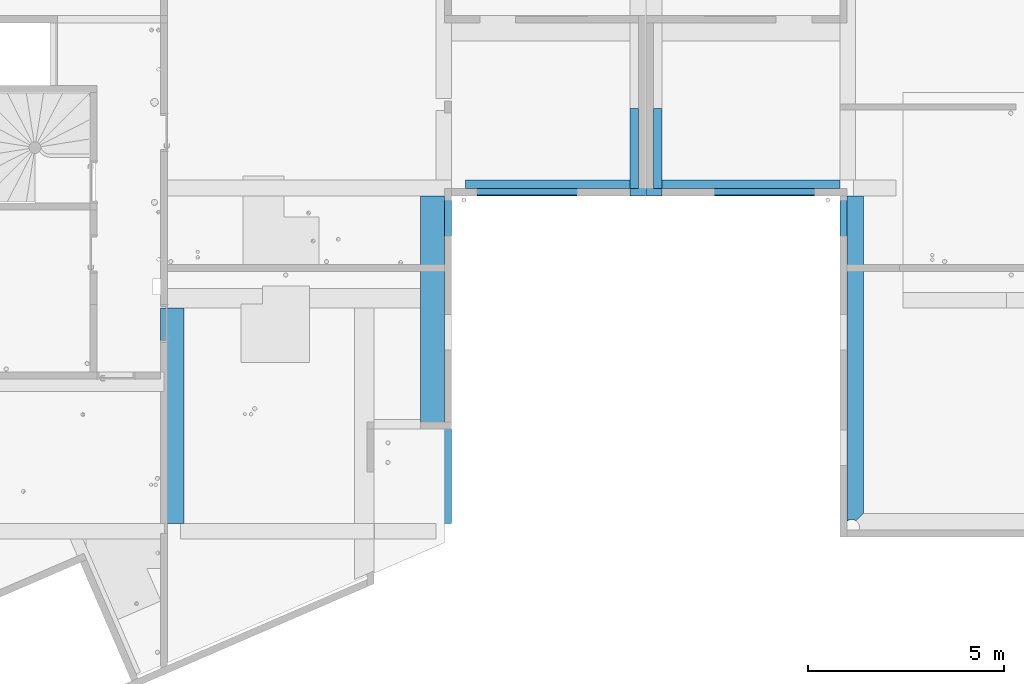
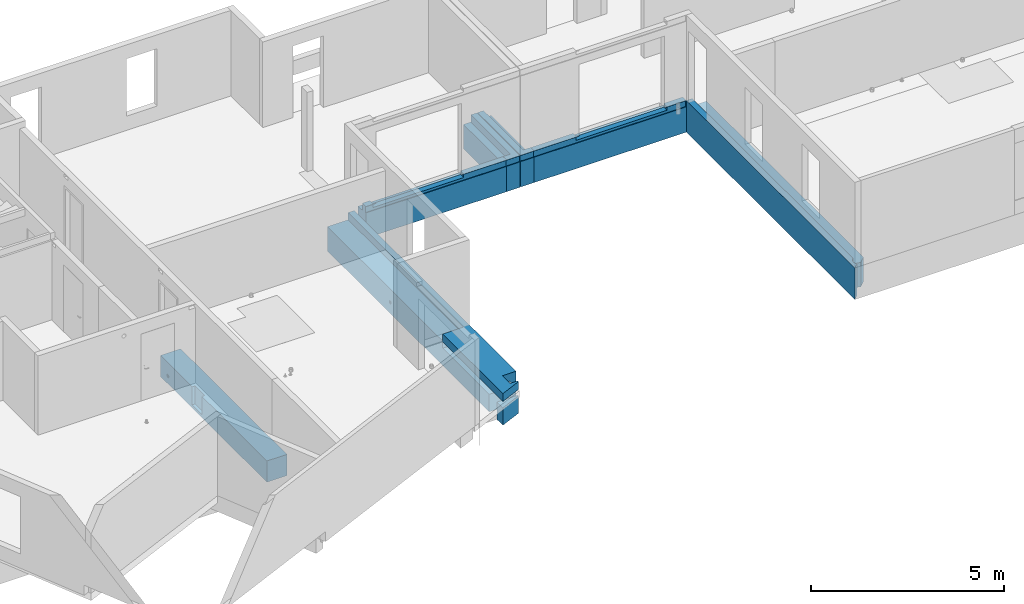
# One storey, part 20 of 34: 7 beams.
"""IFC2X3 building model written with IfcOpenShell, lengths in centimetres."""

from ifc_helpers import new_model, entity, si_unit, converted_unit, derived_unit, direction, frame, origin, place, context, subcontext, project, spatial, faceted_brep, source, transform, mapped, material, type_object, type_shapes, element, save


model = new_model("IFC2X3")

# Units and contexts
model_context = context("Model", 3, precision=0.001, world=origin(), true_north=direction((6.12303176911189e-17, 1.0)))
body_context = subcontext(model_context, "Body", "Model", "MODEL_VIEW")
ifc_project = project(units=[si_unit("LENGTHUNIT", "METRE", prefix="CENTI"), si_unit("AREAUNIT", "SQUARE_METRE"), si_unit("VOLUMEUNIT", "CUBIC_METRE"), converted_unit("PLANEANGLEUNIT", "DEGREE", entity("IfcRatioMeasure", 0.0174532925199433), si_unit("PLANEANGLEUNIT", "RADIAN"), dimensions=[0, 0, 0, 0, 0, 0, 0]), si_unit("MASSUNIT", "GRAM", prefix="KILO"), derived_unit("MASSDENSITYUNIT", [(si_unit("MASSUNIT", "GRAM", prefix="KILO"), 1), (si_unit("LENGTHUNIT", "METRE"), -3)]), si_unit("TIMEUNIT", "SECOND"), si_unit("FREQUENCYUNIT", "HERTZ"), si_unit("THERMODYNAMICTEMPERATUREUNIT", "DEGREE_CELSIUS"), derived_unit("THERMALTRANSMITTANCEUNIT", [(si_unit("MASSUNIT", "GRAM", prefix="KILO"), 1), (si_unit("THERMODYNAMICTEMPERATUREUNIT", "KELVIN"), -1), (si_unit("TIMEUNIT", "SECOND"), -3)]), derived_unit("VOLUMETRICFLOWRATEUNIT", [(si_unit("LENGTHUNIT", "METRE"), 3), (si_unit("TIMEUNIT", "SECOND"), -1)]), si_unit("ELECTRICCURRENTUNIT", "AMPERE"), si_unit("ELECTRICVOLTAGEUNIT", "VOLT"), si_unit("POWERUNIT", "WATT"), si_unit("FORCEUNIT", "NEWTON"), si_unit("ILLUMINANCEUNIT", "LUX"), si_unit("LUMINOUSFLUXUNIT", "LUMEN"), si_unit("LUMINOUSINTENSITYUNIT", "CANDELA"), derived_unit("USERDEFINED", [(si_unit("MASSUNIT", "GRAM", prefix="KILO"), -1), (si_unit("LENGTHUNIT", "METRE"), -2), (si_unit("TIMEUNIT", "SECOND"), 3), (si_unit("LUMINOUSFLUXUNIT", "LUMEN"), 1)]), derived_unit("LINEARVELOCITYUNIT", [(si_unit("LENGTHUNIT", "METRE"), 1), (si_unit("TIMEUNIT", "SECOND"), -1)]), si_unit("PRESSUREUNIT", "PASCAL"), derived_unit("USERDEFINED", [(si_unit("LENGTHUNIT", "METRE"), -2), (si_unit("MASSUNIT", "GRAM", prefix="KILO"), 1), (si_unit("TIMEUNIT", "SECOND"), -2)])], contexts=[model_context])

# Site, building, storey
site_placement = place(None, origin())
site = spatial("IfcSite", under=ifc_project, at=site_placement, Name="Default", CompositionType="ELEMENT")
building_placement = place(site_placement, origin())
building = spatial("IfcBuilding", under=site, at=building_placement, Name="CAGE 03", CompositionType="ELEMENT")
storey_placement = place(building_placement, frame((0.0, 0.0, 340.0)))
storey = spatial("IfcBuildingStorey", under=building, at=storey_placement, Name="R+1", CompositionType="ELEMENT", Elevation=340.0)

# Beams
ifc_material = material(Name="Béton, C25/30")
beam_type_1 = type_object("IfcBeamType", Name="BBGO-Poutre rect:60x90ht", PredefinedType="BEAM")
beam_1_placement = place(storey_placement, frame((4134.36582014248, 3831.66066607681, -90.0), z_axis=(0.0, 0.0, 1.0), x_axis=(0.0, 1.0, 0.0)))
element("IfcBeam", 1, at=beam_1_placement, inside=storey, type_object=beam_type_1, material=ifc_material, Name="BBGO-Poutre rect:60x90ht", ObjectType="BBGO-Poutre rect:60x90ht", context=body_context, shape_type="Brep", body=[
    faceted_brep([(0.0, 0.0, 0.0), (0.0, -60.0, 0.0), (0.0, -60.0, 67.0), (0.0, -50.5000000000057, 67.0), (0.0, -10.5000000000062, 67.0), (0.0, 0.0, 67.0), (550.0, -60.0, 67.0), (516.504844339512, -60.0, 27.169418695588), (516.752422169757, -60.0, 26.0847093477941), (517.0, -60.0, 25.0), (550.0, -60.0, 0.0), (515.811146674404, -60.0, 28.0392880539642), (515.117449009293, -60.0, 28.9091574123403), (514.115026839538, -60.0, 29.3918984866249), (513.112604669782, -60.0, 29.8746395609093), (512.0, -60.0, 29.8746395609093), (510.887395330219, -60.0, 29.8746395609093), (509.884973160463, -60.0, 29.3918984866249), (508.882550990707, -60.0, 28.9091574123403), (508.188853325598, -60.0, 28.0392880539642), (507.495155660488, -60.0, 27.169418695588), (507.247577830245, -60.0, 26.0847093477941), (507.0, -60.0, 25.0), (510.887395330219, -60.0, 20.1253604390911), (509.884973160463, -60.0, 20.6081015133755), (508.882550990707, -60.0, 21.09084258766), (508.188853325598, -60.0, 21.9607119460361), (507.247577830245, -60.0, 23.9152906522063), (507.495155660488, -60.0, 22.8305813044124), (516.812504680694, -60.0, 24.1785293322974), (516.504844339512, -60.0, 22.8305813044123), (515.811146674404, -60.0, 21.9607119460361), (515.117449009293, -60.0, 21.09084258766), (514.115026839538, -60.0, 20.6081015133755), (513.112604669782, -60.0, 20.125360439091), (512.0, -60.0, 20.1253604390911), (336.500000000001, 0.0, 67.0), (336.500000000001, -9.0, 67.0), (336.500000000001, -9.0, 10.0), (336.500000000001, 0.0, 10.0), (386.5, 0.0, 10.0), (386.5, -9.0, 10.0), (386.5, 0.0, 67.0), (386.5, -9.0, 67.0), (550.0, -18.0, 67.0), (550.0, 0.0, 0.0), (550.0, 0.0, 67.0), (516.504844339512, 0.0, 22.8305813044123), (516.752422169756, 0.0, 23.9152906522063), (517.0, 0.0, 25.0), (515.811146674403, 0.0, 21.9607119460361), (515.117449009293, 0.0, 21.09084258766), (514.115026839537, 0.0, 20.6081015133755), (513.112604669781, 0.0, 20.125360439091), (512.0, 0.0, 20.1253604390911), (510.887395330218, 0.0, 20.1253604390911), (509.884973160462, 0.0, 20.6081015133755), (508.882550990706, 0.0, 21.09084258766), (508.188853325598, 0.0, 21.9607119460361), (507.495155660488, 0.0, 22.8305813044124), (507.187495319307, 0.0, 24.1785293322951), (507.0, 0.0, 25.0), (508.882550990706, 0.0, 28.9091574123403), (508.188853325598, 0.0, 28.0392880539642), (507.247577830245, 0.0, 26.0847093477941), (507.495155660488, 0.0, 27.169418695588), (516.812504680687, 0.0, 25.8214706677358), (516.504844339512, 0.0, 27.169418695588), (515.811146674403, 0.0, 28.0392880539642), (515.117449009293, 0.0, 28.9091574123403), (514.115026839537, 0.0, 29.3918984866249), (513.112604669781, 0.0, 29.8746395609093), (512.0, 0.0, 29.8746395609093), (510.887395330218, 0.0, 29.8746395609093), (509.884973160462, 0.0, 29.3918984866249), (516.719416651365, -30.0, 23.3486046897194), (509.339839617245, -30.0, 20.7663790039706), (516.174874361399, -30.0, 22.2485596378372), (512.451828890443, -30.0, 20.0204567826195), (511.328739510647, -30.0, 20.0452639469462), (513.651395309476, -30.0, 20.2805833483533), (517.0, -35.3099209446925, 25.0), (517.0, -24.6900790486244, 25.0), (515.455244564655, -30.0, 21.3859600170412), (514.612452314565, -32.6003872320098, 20.7367743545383), (508.388547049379, -30.0, 21.542051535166), (507.0, -24.6900790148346, 25.0), (507.280583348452, -30.0, 23.3486046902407), (510.295713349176, -32.6003872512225, 20.2994248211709), (507.737752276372, -27.4291545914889, 22.3859524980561), (512.67126048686, -30.0, 29.954736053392), (511.548171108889, -30.0, 29.9795432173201), (507.825125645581, -30.0000000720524, 27.7514403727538), (507.280583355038, -29.9999995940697, 26.6513953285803), (510.348604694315, -30.0, 29.7194166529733), (508.544755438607, -29.9999999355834, 28.6140399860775), (509.387547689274, -32.6003870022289, 29.2632256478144), (514.660160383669, -30.0, 29.2336209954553), (515.611452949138, -30.0, 28.4579484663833), (516.719416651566, -30.0, 26.6513953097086), (513.704286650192, -32.6003871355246, 29.7005751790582), (516.262247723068, -27.4291546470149, 27.6140475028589)], [[[0, 1, 2, 3, 4, 5]], [[6, 7, 8]], [[6, 8, 9]], [[9, 10, 6]], [[6, 11, 7]], [[6, 12, 11]], [[6, 13, 12]], [[6, 14, 13]], [[6, 15, 14]], [[6, 16, 15]], [[6, 17, 16]], [[6, 18, 17]], [[6, 2, 18]], [[2, 19, 18]], [[2, 20, 19]], [[2, 21, 20]], [[2, 22, 21]], [[1, 22, 2]], [[23, 1, 10]], [[1, 23, 24]], [[1, 24, 25]], [[1, 25, 26]], [[1, 27, 22]], [[1, 28, 27]], [[1, 26, 28]], [[10, 9, 29]], [[10, 29, 30]], [[10, 30, 31]], [[10, 31, 32]], [[10, 32, 33]], [[10, 33, 34]], [[10, 34, 35]], [[10, 35, 23]], [[36, 37, 38, 39]], [[40, 39, 38, 41]], [[42, 40, 41, 43]], [[44, 6, 10, 45, 46]], [[38, 37, 43, 41]], [[45, 47, 48]], [[45, 48, 49]], [[49, 46, 45]], [[45, 50, 47]], [[45, 51, 50]], [[45, 52, 51]], [[45, 53, 52]], [[45, 54, 53]], [[45, 55, 54]], [[45, 40, 55]], [[45, 39, 40]], [[39, 45, 0]], [[5, 39, 0]], [[39, 5, 36]], [[40, 56, 55]], [[40, 57, 56]], [[40, 58, 57]], [[40, 59, 58]], [[40, 60, 59]], [[40, 61, 60]], [[42, 61, 40]], [[62, 42, 46]], [[42, 62, 63]], [[42, 64, 61]], [[42, 65, 64]], [[42, 63, 65]], [[46, 49, 66]], [[46, 66, 67]], [[46, 67, 68]], [[46, 68, 69]], [[46, 69, 70]], [[46, 70, 71]], [[46, 71, 72]], [[46, 72, 73]], [[46, 73, 74]], [[46, 74, 62]], [[45, 10, 1, 0]], [[43, 37, 36, 5, 4, 3, 2, 6, 44, 46, 42]], [[75, 48, 47]], [[56, 57, 76]], [[47, 77, 75]], [[35, 34, 78]], [[79, 35, 78]], [[34, 33, 80]], [[48, 81, 82, 49]], [[29, 9, 81]], [[81, 48, 75]], [[77, 50, 83]], [[33, 84, 80]], [[29, 75, 30]], [[80, 53, 78]], [[75, 29, 81]], [[25, 24, 76]], [[84, 83, 51]], [[57, 85, 76]], [[77, 47, 50]], [[84, 51, 52]], [[86, 27, 87]], [[31, 30, 77]], [[88, 76, 24]], [[52, 53, 80]], [[85, 58, 89]], [[87, 27, 28]], [[83, 31, 77]], [[32, 31, 83]], [[78, 54, 79]], [[34, 80, 78]], [[30, 75, 77]], [[23, 35, 79]], [[78, 53, 54]], [[88, 55, 56]], [[88, 79, 55]], [[25, 76, 85]], [[26, 25, 85]], [[89, 87, 28]], [[87, 60, 86]], [[28, 26, 89]], [[85, 57, 58]], [[86, 22, 27]], [[60, 61, 86]], [[60, 87, 59]], [[59, 87, 89]], [[59, 89, 58]], [[26, 85, 89]], [[84, 33, 32]], [[51, 83, 50]], [[80, 84, 52]], [[83, 84, 32]], [[88, 24, 23]], [[55, 79, 54]], [[76, 88, 56]], [[79, 88, 23]], [[21, 22, 86]], [[86, 61, 64]], [[90, 15, 91]], [[65, 92, 93]], [[16, 94, 91]], [[15, 16, 91]], [[16, 17, 94]], [[20, 93, 92]], [[64, 93, 86]], [[93, 21, 86]], [[92, 63, 95]], [[17, 96, 94]], [[94, 73, 91]], [[70, 69, 97]], [[12, 13, 97]], [[96, 62, 74]], [[69, 98, 97]], [[18, 19, 95]], [[92, 65, 63]], [[82, 8, 99]], [[93, 64, 65]], [[100, 97, 13]], [[95, 19, 92]], [[98, 68, 101]], [[99, 8, 7]], [[19, 20, 92]], [[74, 73, 94]], [[91, 72, 90]], [[96, 95, 62]], [[93, 20, 21]], [[14, 15, 90]], [[91, 73, 72]], [[100, 71, 70]], [[100, 90, 71]], [[12, 97, 98]], [[11, 12, 98]], [[101, 99, 7]], [[99, 66, 82]], [[7, 11, 101]], [[98, 69, 68]], [[8, 82, 81, 9]], [[66, 49, 82]], [[66, 99, 67]], [[67, 99, 101]], [[67, 101, 68]], [[11, 98, 101]], [[96, 17, 18]], [[62, 95, 63]], [[94, 96, 74]], [[95, 96, 18]], [[100, 13, 14]], [[71, 90, 72]], [[97, 100, 70]], [[90, 100, 14]]]),
])
beam_type_2 = type_object("IfcBeamType", Name="BBGO-Poutre rect:40x100ht", PredefinedType="BEAM")
beam_2_placement = place(storey_placement, frame((4913.36582014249, 4668.66066607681, -100.0)))
element("IfcBeam", 2, at=beam_2_placement, inside=storey, type_object=beam_type_2, material=ifc_material, Name="BBGO-Poutre rect:40x100ht", ObjectType="BBGO-Poutre rect:40x100ht", context=body_context, shape_type="Brep", body=[
    faceted_brep([(420.0, 0.0, 0.0), (420.0, 40.0, 0.0), (420.0, 40.0, 77.0), (420.0, 18.0, 77.0), (420.0, 18.0, 100.0), (420.0, 0.0, 100.0), (420.0, 0.0, 99.5899561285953), (420.0, 2.0, 99.6099582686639), (420.0, 2.0, 80.0), (420.0, 0.0, 80.0), (285.0, 0.0, 100.0), (285.0, 0.0, 99.5899561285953), (0.0, 0.0, 0.0), (0.0, 40.0, 0.0), (0.0, 40.0, 77.0), (293.0, 18.0, 100.0), (293.0, 2.0, 100.0), (285.0, 2.0, 100.0), (0.0, 0.0, 80.0), (0.0, 2.0, 80.0), (0.0, 2.0, 99.6099582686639), (0.0, 0.0, 99.5899561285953), (0.0, 0.0, 100.0), (0.0, 18.0, 100.0), (0.0, 18.0, 77.0), (22.0, 18.0, 100.0), (22.0, 18.0, 88.0), (293.0, 18.0, 88.0), (30.0, 0.0, 100.0), (30.0, 0.0, 99.5899561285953), (30.0, 2.0, 99.6099582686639), (30.0, 2.0, 100.0), (285.0, 2.0, 99.6099582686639), (22.0, 2.0, 88.0), (293.0, 2.0, 88.0), (293.0, 2.0, 99.6099582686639), (22.0, 2.0, 99.6099582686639), (22.0, 2.0, 100.0)], [[[0, 1, 2, 3, 4, 5, 6, 7, 8, 9]], [[5, 10, 11, 6]], [[1, 0, 12, 13]], [[1, 13, 14, 2]], [[10, 5, 4, 15, 16, 17]], [[13, 12, 18, 19, 20, 21, 22, 23, 24, 14]], [[24, 3, 2, 14]], [[3, 24, 23, 25, 26, 27, 15, 4]], [[8, 19, 18, 9]], [[28, 29, 30, 31]], [[11, 10, 17, 32]], [[26, 33, 34, 27]], [[35, 34, 33, 36, 20, 19, 8, 7]], [[22, 28, 31, 37, 25, 23]], [[36, 30, 29, 21, 20]], [[28, 22, 21, 29]], [[12, 0, 9, 18]], [[32, 35, 7, 6, 11]], [[35, 32, 17, 16]], [[30, 36, 37, 31]], [[36, 33, 26, 25, 37]], [[34, 35, 16, 15, 27]]]),
])
beam_3_placement = place(storey_placement, frame((5415.36582014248, 4668.6606660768, -100.0)))
element("IfcBeam", 3, at=beam_3_placement, inside=storey, type_object=beam_type_2, material=ifc_material, Name="BBGO-Poutre rect:40x100ht", ObjectType="BBGO-Poutre rect:40x100ht", context=body_context, shape_type="Brep", body=[
    faceted_brep([(0.0, 40.0, 0.0), (0.0, 0.0, 0.0), (0.0, 0.0, 80.0), (0.0, 2.0, 80.0), (0.0, 2.0, 99.6099582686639), (0.0, 0.0, 99.5899561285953), (0.0, 0.0, 100.0), (0.0, 18.0, 100.0), (0.0, 18.0, 77.0), (0.0, 40.0, 77.0), (135.0, 0.0, 100.0), (135.0, 0.0, 99.5899561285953), (455.0, 40.0, 0.0), (455.0, 0.0, 0.0), (455.0, 40.0, 77.0), (455.0, 0.0, 100.0), (455.0, 18.0, 100.0), (398.0, 18.0, 100.0), (398.0, 2.0, 100.0), (390.0, 2.0, 100.0), (390.0, 0.0, 100.0), (455.0, 18.0, 77.0), (127.0, 18.0, 100.0), (127.0, 18.0, 88.0), (398.0, 18.0, 88.0), (450.0, 0.0, 80.0), (450.0, 2.0, 80.0), (127.0, 2.0, 99.6099582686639), (135.0, 2.0, 99.6099582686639), (135.0, 2.0, 100.0), (390.0, 0.0, 99.5899561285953), (390.0, 2.0, 99.6099582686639), (127.0, 2.0, 88.0), (398.0, 2.0, 88.0), (454.0, 2.0, 99.6099582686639), (454.0, 2.0, 80.0), (454.0, 0.0, 80.0), (454.0, 0.0, 99.5899561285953), (451.0, 2.0, 80.0), (398.0, 2.0, 99.6099582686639), (450.0, 2.0, 81.4663076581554), (451.0, 2.0, 81.0), (127.0, 2.0, 100.0), (451.0, 0.0, 80.0), (451.0, 0.0, 81.0), (450.0, 0.0, 81.4663076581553)], [[[0, 1, 2, 3, 4, 5, 6, 7, 8, 9]], [[10, 6, 5, 11]], [[1, 0, 12, 13]], [[12, 0, 9, 14]], [[15, 16, 17, 18, 19, 20]], [[8, 21, 14, 9]], [[21, 8, 7, 22, 23, 24, 17, 16]], [[15, 13, 12, 14, 21, 16]], [[25, 26, 3, 2]], [[27, 28, 11, 5, 4]], [[10, 11, 28, 29]], [[30, 20, 19, 31]], [[23, 32, 33, 24]], [[34, 35, 36, 37]], [[38, 35, 34, 39, 33, 32, 27, 4, 3, 26, 40, 41]], [[6, 10, 29, 42, 22, 7]], [[1, 13, 15, 20, 30, 37, 36, 43, 44, 45, 25, 2]], [[39, 34, 37, 30, 31]], [[39, 31, 19, 18]], [[28, 27, 42, 29]], [[38, 41, 44, 43]], [[40, 26, 25, 45]], [[41, 40, 45, 44]], [[35, 38, 43, 36]], [[33, 39, 18, 17, 24]], [[27, 32, 23, 22, 42]]]),
])
beam_4_placement = place(storey_placement, frame((5375.36582014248, 4668.6606660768, -100.0), z_axis=(0.0, 0.0, 1.0), x_axis=(0.0, 1.0, 0.0)))
element("IfcBeam", 4, at=beam_4_placement, inside=storey, type_object=beam_type_2, material=ifc_material, Name="BBGO-Poutre rect:40x100ht", ObjectType="BBGO-Poutre rect:40x100ht", context=body_context, shape_type="Brep", body=[
    faceted_brep([(0.0, 0.0, 0.0), (0.0, -40.0, 0.0), (0.0, -40.0, 80.0), (0.0, -4.0, 80.0), (0.0, -4.0, 81.4663076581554), (0.0, -3.0, 81.0), (0.0, -3.0, 80.0), (0.0, 0.0, 80.0), (18.0, -40.0, 77.0), (18.0, -40.0, 100.0), (0.0, -40.0, 100.0), (0.0, -40.0, 99.5899561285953), (2.0, -40.0, 99.6099582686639), (2.0, -40.0, 80.0), (40.0, -40.0, 0.0), (223.0, -40.0, 0.0), (223.0, -40.0, 77.0), (40.0, -40.0, 77.0), (223.0, 0.0, 0.0), (2.0, 0.0, 80.0), (2.0, 0.0, 99.6099582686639), (0.0, 0.0, 99.5899561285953), (0.0, 0.0, 100.0), (18.0, 0.0, 100.0), (223.0, 0.0, 100.0), (18.0, -18.0, 100.0), (223.0, -18.0, 100.0), (18.0, -18.0, 77.0), (223.0, -18.0, 77.0), (2.0, -3.0, 80.0), (2.0, -3.0, 81.0), (2.0, -4.0, 81.4663076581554), (2.0, -4.0, 80.0)], [[[0, 1, 2, 3, 4, 5, 6, 7]], [[8, 9, 10, 11, 12, 13, 2, 1, 14, 15, 16, 17]], [[1, 0, 18, 15, 14]], [[18, 0, 7, 19, 20, 21, 22, 23, 24]], [[22, 10, 9, 25, 26, 24, 23]], [[27, 8, 17, 16, 28]], [[8, 27, 25, 9]], [[26, 25, 27, 28]], [[16, 15, 18, 24, 26, 28]], [[29, 19, 7, 6]], [[20, 12, 11, 21]], [[19, 29, 30, 31, 32, 13, 12, 20]], [[30, 29, 6, 5]], [[32, 31, 4, 3]], [[31, 30, 5, 4]], [[10, 22, 21, 11]], [[32, 3, 2, 13]]]),
])
beam_5_placement = place(storey_placement, frame((5333.36582014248, 4668.6606660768, -100.0), z_axis=(0.0, 0.0, 1.0), x_axis=(0.0, 1.0, 0.0)))
element("IfcBeam", 5, at=beam_5_placement, inside=storey, type_object=beam_type_2, material=ifc_material, Name="BBGO-Poutre rect:40x100ht", ObjectType="BBGO-Poutre rect:40x100ht", context=body_context, shape_type="Brep", body=[
    faceted_brep([(0.0, 0.0, 0.0), (0.0, -40.0, 0.0), (0.0, -40.0, 80.0), (0.0, -37.0, 80.0), (0.0, -37.0, 81.0), (0.0, -36.0, 81.4663076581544), (0.0, -36.0, 80.0), (0.0, 0.0, 80.0), (223.0, -40.0, 100.0), (18.0, -40.0, 100.0), (0.0, -40.0, 100.0), (0.0, -40.0, 99.5899561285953), (2.0, -40.0, 99.6099582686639), (2.0, -40.0, 80.0), (223.0, -40.0, 0.0), (40.0, 0.0, 0.0), (223.0, 0.0, 0.0), (18.0, 0.0, 100.0), (18.0, 0.0, 77.0), (40.0, 0.0, 77.0), (223.0, 0.0, 77.0), (2.0, 0.0, 80.0), (2.0, 0.0, 99.6099582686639), (0.0, 0.0, 99.5899561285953), (0.0, 0.0, 100.0), (223.0, -22.0, 100.0), (18.0, -22.0, 100.0), (18.0, -22.0, 77.0), (223.0, -22.0, 77.0), (2.0, -36.0, 80.0), (2.0, -37.0, 80.0), (2.0, -36.0, 81.4663076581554), (2.0, -37.0, 81.0)], [[[0, 1, 2, 3, 4, 5, 6, 7]], [[8, 9, 10, 11, 12, 13, 2, 1, 14]], [[1, 0, 15, 16, 14]], [[17, 18, 19, 20, 16, 15, 0, 7, 21, 22, 23, 24]], [[24, 10, 9, 8, 25, 26, 17]], [[18, 27, 28, 20, 19]], [[26, 25, 28, 27]], [[27, 18, 17, 26]], [[8, 14, 16, 20, 28, 25]], [[6, 29, 21, 7]], [[22, 12, 11, 23]], [[30, 13, 12, 22, 21, 29, 31, 32]], [[30, 32, 4, 3]], [[31, 29, 6, 5]], [[32, 31, 5, 4]], [[10, 24, 23, 11]], [[13, 30, 3, 2]]]),
])
beam_type_3 = type_object("IfcBeamType", Name="BBGO-Poutre rect:60x100ht", PredefinedType="BEAM")
beam_6_placement = place(storey_placement, frame((5870.36582014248, 3796.66066607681, -100.0), z_axis=(0.0, 0.0, 1.0), x_axis=(0.0, 1.0, 0.0)))
element("IfcBeam", 6, at=beam_6_placement, inside=storey, type_object=beam_type_3, material=ifc_material, Name="BBGO-Poutre rect:60x100ht", ObjectType="BBGO-Poutre rect:60x100ht", context=body_context, shape_type="Brep", body=[
    faceted_brep([(872.0, -60.0, 0.0), (872.0, -60.0, 77.0), (60.0, -60.0, 77.0), (60.0, -60.0, 0.0), (872.0, -35.0, 0.0), (41.4194109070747, -41.4194109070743, 0.0), (43.677946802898, -37.1508253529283, 0.0), (44.8474740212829, -32.4653143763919, 0.0), (44.859803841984, -27.6360644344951, 0.0), (43.7142173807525, -22.9446426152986, 0.0), (41.4775075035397, -18.6645800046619, 0.0), (38.2800845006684, -15.0454235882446, 0.0), (34.30837257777, -12.2981865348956, 0.0), (29.7939404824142, -10.5830451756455, 0.0), (25.0, -10.0, 0.0), (20.9763976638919, -10.4089146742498, 0.0), (17.1173263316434, -11.618937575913, 0.0), (13.5805890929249, -13.5805890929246, 0.0), (0.0, 0.0, 0.0), (872.0, 0.0, 0.0), (872.0, 0.0, 100.0), (0.0, 0.0, 100.0), (769.0, 0.0, 100.0), (860.0, 0.0, 100.0), (860.0, -18.0, 100.0), (872.0, -18.0, 100.0), (13.5805890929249, -13.5805890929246, 100.0), (17.1173263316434, -11.618937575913, 100.0), (20.9763976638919, -10.4089146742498, 100.0), (25.0, -10.0, 100.0), (29.5954928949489, -10.5351227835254, 100.0), (33.9446488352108, -12.1116446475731, 100.0), (37.8151840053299, -14.6451617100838, 100.0), (41.0, -18.0, 100.0), (769.0, -18.0, 100.0), (41.4194109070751, -41.4194109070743, 77.0), (44.8851657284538, -32.1401364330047, 77.0), (43.7358427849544, -36.9977278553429, 77.0), (44.795785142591, -27.1492298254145, 77.0), (43.4732687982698, -22.3359057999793, 77.0), (41.0, -18.0, 77.0), (25.0, -10.0, 49.3801581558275), (872.0, -18.0, 77.0), (872.0, -35.0, 77.0), (13.5805890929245, -13.5805890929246, 50.6198418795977), (19.0161976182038, -10.9161296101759, 50.0)], [[[0, 1, 2, 3]], [[4, 0, 3, 5, 6, 7, 8, 9, 10, 11, 12, 13, 14, 15, 16, 17, 18, 19]], [[20, 19, 18, 21, 22, 23]], [[24, 25, 20, 23, 22, 21, 26, 27, 28, 29, 30, 31, 32, 33, 34]], [[6, 5, 35]], [[8, 7, 36]], [[37, 7, 6]], [[9, 8, 38]], [[37, 6, 35]], [[7, 37, 36]], [[36, 38, 8]], [[38, 39, 9]], [[39, 10, 9]], [[11, 10, 40]], [[13, 12, 31]], [[32, 12, 11]], [[14, 13, 30]], [[33, 32, 40]], [[32, 11, 40]], [[12, 32, 31]], [[31, 30, 13]], [[30, 29, 41, 14]], [[10, 39, 40]], [[0, 4, 19, 20, 25, 42, 43, 1]], [[17, 44, 26, 21, 18]], [[2, 35, 5, 3]], [[45, 15, 41]], [[28, 41, 29]], [[41, 15, 14]], [[45, 16, 15]], [[44, 17, 16]], [[44, 27, 26]], [[45, 27, 44]], [[45, 28, 27]], [[45, 41, 28]], [[16, 45, 44]], [[43, 42, 40, 39, 38, 36, 37, 35, 2, 1]], [[34, 33, 40, 42, 25, 24]]]),
])
beam_type_4 = type_object("IfcBeamType", Name="80x100ht", PredefinedType="BEAM", material=ifc_material)
shared_shape = source(origin(), body_context, "Body", "Brep", [
    faceted_brep([(80.0, 907.508005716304, 0.0), (80.0, 907.508005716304, 100.0), (80.0, 895.508005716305, 100.0), (80.0, 804.508005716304, 100.0), (80.0, 587.012850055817, 32.8305813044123), (80.0, 586.319152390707, 31.9607119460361), (80.0, 585.625454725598, 31.09084258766), (80.0, 584.623032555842, 30.6081015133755), (80.0, 583.620610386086, 30.125360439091), (80.0, 582.508005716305, 30.1253604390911), (80.0, 581.395401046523, 30.1253604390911), (80.0, 70.5080057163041, 0.0), (80.0, 587.26042788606, 33.9152906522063), (80.0, 587.508005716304, 35.0), (80.0, 587.320510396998, 35.8214706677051), (80.0, 587.012850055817, 37.169418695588), (80.0, 586.319152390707, 38.0392880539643), (80.0, 585.625454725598, 38.9091574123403), (80.0, 584.623032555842, 39.3918984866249), (80.0, 583.620610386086, 39.8746395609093), (80.0, 582.508005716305, 39.8746395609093), (80.0, 581.395401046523, 39.8746395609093), (80.0, 329.008005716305, 100.0), (80.0, 311.008005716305, 100.0), (80.0, 579.390556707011, 31.0908425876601), (80.0, 578.696859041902, 31.9607119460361), (80.0, 580.392978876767, 39.3918984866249), (80.0, 579.390556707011, 38.9091574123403), (80.0, 578.696859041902, 38.0392880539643), (80.0, 578.003161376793, 37.169418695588), (80.0, 578.003161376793, 32.8305813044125), (80.0, 577.695501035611, 34.1785293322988), (80.0, 577.695501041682, 35.8214706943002), (80.0, 577.508005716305, 35.0), (80.0, 70.5080057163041, 100.0), (80.0, 580.392978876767, 30.6081015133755), (0.0, 907.508005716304, 0.0), (40.0, 70.5080057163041, 0.0), (0.0, 70.5080057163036, 0.0), (0.0, 620.508005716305, 0.0), (0.0, 670.508005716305, 0.0), (0.0, 907.508005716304, 77.0), (0.0, 670.508005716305, 77.0), (0.0, 620.508005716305, 77.0), (0.0, 587.508005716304, 35.0), (0.0, 587.320510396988, 34.1785293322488), (0.0, 587.012850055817, 32.8305813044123), (0.0, 586.319152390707, 31.9607119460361), (0.0, 585.625454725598, 31.09084258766), (0.0, 584.623032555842, 30.6081015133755), (0.0, 583.620610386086, 30.125360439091), (0.0, 582.508005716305, 30.1253604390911), (0.0, 581.395401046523, 30.1253604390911), (0.0, 580.392978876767, 30.6081015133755), (0.0, 579.390556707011, 31.0908425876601), (0.0, 311.008005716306, 55.0), (0.0, 70.5080057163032, 55.0), (0.0, 578.696859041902, 31.9607119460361), (0.0, 578.003161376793, 32.8305813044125), (0.0, 336.008005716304, 77.0), (0.0, 311.008005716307, 75.0), (0.0, 311.008005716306, 77.0), (0.0, 70.5080057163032, 75.0), (0.0, 311.008005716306, 100.0), (0.0, 0.0, 100.0), (0.0, 30.5080057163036, 75.0), (0.0, 0.0, 75.0), (0.0, 579.390556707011, 38.9091574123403), (0.0, 578.696859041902, 38.0392880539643), (0.0, 578.003161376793, 37.169418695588), (0.0, 577.755583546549, 36.0847093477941), (0.0, 577.755583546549, 33.9152906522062), (0.0, 577.508005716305, 35.0), (0.0, 587.260427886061, 36.0847093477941), (0.0, 587.012850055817, 37.169418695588), (0.0, 586.319152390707, 38.0392880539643), (0.0, 585.625454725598, 38.9091574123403), (0.0, 584.623032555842, 39.3918984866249), (0.0, 583.620610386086, 39.8746395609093), (0.0, 582.508005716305, 39.8746395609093), (0.0, 581.395401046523, 39.8746395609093), (0.0, 580.392978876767, 39.3918984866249), (62.0, 907.508005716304, 100.0), (62.0, 895.508005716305, 100.0), (62.0, 804.508005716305, 100.0), (62.0, 329.008005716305, 100.0), (62.0, 311.008005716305, 100.0), (62.0, 26.826453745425, 100.0), (62.0, 30.5080057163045, 100.0), (40.0, 30.5080057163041, 100.0), (40.0, 70.5080057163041, 100.0), (62.0, 907.508005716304, 77.0), (62.0, 311.008005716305, 77.0), (62.0, 311.008005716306, 75.0), (62.0, 311.008005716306, 55.0), (62.0, 70.5080057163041, 55.0), (62.0, 70.5080057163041, 75.0), (40.0, 70.5080057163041, 55.0), (40.0, 30.5080057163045, 75.0), (62.0, 30.5080057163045, 75.0), (62.0, 26.826453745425, 75.0), (40.0, 70.5080057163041, 75.0), (30.6197533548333, 587.508005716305, 35.0), (49.3801580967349, 587.508005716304, 35.0), (39.3834377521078, 577.732789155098, 33.5176684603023), (49.3801580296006, 577.508005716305, 35.0), (40.0, 586.544455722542, 32.0492252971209), (40.6165622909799, 587.283222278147, 33.5176684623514), (33.2861030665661, 579.390556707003, 31.0908425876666), (40.0, 578.598848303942, 31.8825509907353), (40.0, 584.677424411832, 30.4951556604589), (35.7697144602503, 585.706753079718, 31.157082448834), (33.2861030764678, 583.620610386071, 30.1253604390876), (40.0, 582.508005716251, 30.0), (40.0, 580.338587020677, 30.4951556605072), (33.2861030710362, 581.395401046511, 30.1253604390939), (28.648728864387, 578.091552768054, 32.655870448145), (55.1569180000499, 578.1691567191, 32.5151681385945), (39.3834366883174, 577.732789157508, 36.4823315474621), (40.0, 578.471555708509, 37.9507747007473), (39.3834377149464, 587.283222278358, 36.482331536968), (28.6487289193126, 586.924458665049, 37.3441295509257), (55.1569180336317, 586.846854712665, 37.4848318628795), (33.2861031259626, 585.625454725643, 38.9091574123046), (40.0, 586.417163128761, 38.1174490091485), (40.0, 580.338587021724, 39.5048443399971), (35.7697146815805, 579.30925835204, 38.8429175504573), (33.2861031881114, 581.395401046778, 39.8746395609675), (40.0, 582.508005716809, 40.0), (40.0, 584.677424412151, 39.5048443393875), (33.2861031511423, 583.620610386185, 39.8746395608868)], [[[0, 1, 2]], [[2, 3, 0]], [[3, 4, 0]], [[0, 4, 5]], [[0, 5, 6]], [[0, 6, 7]], [[0, 7, 8]], [[0, 8, 9]], [[0, 9, 10]], [[10, 11, 0]], [[3, 12, 4]], [[3, 13, 12]], [[3, 14, 13]], [[3, 15, 14]], [[3, 16, 15]], [[3, 17, 16]], [[3, 18, 17]], [[3, 19, 18]], [[3, 20, 19]], [[3, 21, 20]], [[21, 3, 22]], [[11, 22, 23]], [[11, 24, 22]], [[22, 24, 25]], [[22, 26, 21]], [[22, 27, 26]], [[22, 28, 27]], [[22, 29, 28]], [[22, 25, 30]], [[22, 30, 31]], [[22, 32, 29]], [[22, 33, 32]], [[22, 31, 33]], [[11, 23, 34]], [[11, 10, 35]], [[11, 35, 24]], [[36, 0, 11, 37, 38, 39, 40]], [[40, 41, 36]], [[41, 40, 42]], [[39, 42, 40]], [[43, 42, 39]], [[39, 44, 43]], [[39, 45, 44]], [[39, 46, 45]], [[39, 47, 46]], [[39, 48, 47]], [[39, 49, 48]], [[39, 50, 49]], [[39, 51, 50]], [[39, 52, 51]], [[39, 53, 52]], [[39, 54, 53]], [[54, 39, 55]], [[39, 38, 55]], [[56, 55, 38]], [[55, 57, 54]], [[55, 58, 57]], [[58, 55, 59]], [[60, 59, 55]], [[59, 60, 61]], [[61, 60, 62]], [[62, 63, 61]], [[62, 64, 63]], [[62, 65, 64]], [[66, 64, 65]], [[59, 43, 67]], [[59, 67, 68]], [[59, 68, 69]], [[59, 69, 70]], [[59, 71, 58]], [[59, 72, 71]], [[59, 70, 72]], [[43, 44, 73]], [[43, 73, 74]], [[43, 74, 75]], [[43, 75, 76]], [[43, 76, 77]], [[43, 77, 78]], [[43, 78, 79]], [[43, 79, 80]], [[43, 80, 81]], [[43, 81, 67]], [[82, 83, 84, 85, 86, 63, 64, 87, 88, 89, 90, 34, 23, 22, 3, 2, 1]], [[1, 0, 36, 41, 91, 82]], [[42, 43, 59, 61, 92, 91, 41]], [[84, 83, 82, 91, 92, 86, 85]], [[93, 94, 95, 96]], [[86, 92, 61, 63]], [[97, 95, 94, 55, 56]], [[98, 99, 100, 66, 65, 62, 60, 93, 96, 101]], [[60, 55, 94, 93]], [[90, 101, 96, 95, 97, 56, 38, 37, 11, 34]], [[98, 101, 90, 89]], [[98, 89, 88, 99]], [[66, 100, 87, 64]], [[100, 99, 88, 87]], [[44, 45, 102]], [[12, 13, 103, 102]], [[104, 71, 105]], [[46, 106, 107]], [[108, 57, 109]], [[105, 31, 104]], [[7, 6, 110, 8]], [[48, 111, 47]], [[107, 12, 102]], [[106, 4, 107]], [[106, 47, 111]], [[110, 49, 112]], [[46, 107, 45]], [[9, 8, 113, 10]], [[102, 45, 107]], [[35, 10, 114, 24]], [[115, 53, 114]], [[25, 24, 109]], [[112, 51, 113]], [[108, 109, 24]], [[31, 30, 104]], [[111, 110, 6]], [[114, 53, 108]], [[111, 49, 110]], [[109, 57, 116]], [[33, 31, 105]], [[72, 105, 71]], [[112, 113, 8]], [[115, 114, 10]], [[113, 51, 115]], [[116, 104, 117]], [[5, 4, 106]], [[58, 116, 57]], [[116, 58, 104]], [[107, 4, 12]], [[6, 5, 111]], [[106, 46, 47]], [[49, 111, 48]], [[5, 106, 111]], [[50, 112, 49]], [[51, 112, 50]], [[52, 115, 51]], [[110, 112, 8]], [[53, 115, 52]], [[54, 108, 53]], [[113, 115, 10]], [[30, 25, 117]], [[57, 108, 54]], [[114, 108, 24]], [[104, 58, 71]], [[109, 116, 117]], [[109, 117, 25]], [[30, 117, 104]], [[29, 118, 119]], [[103, 14, 120]], [[118, 69, 119]], [[121, 120, 122]], [[123, 75, 124]], [[26, 27, 125, 21]], [[118, 105, 70]], [[105, 118, 32]], [[32, 118, 29]], [[119, 68, 126]], [[125, 81, 127]], [[32, 33, 105]], [[105, 72, 70]], [[20, 21, 128, 19]], [[120, 73, 103]], [[18, 19, 129, 17]], [[123, 124, 17]], [[16, 17, 124]], [[130, 129, 19]], [[127, 79, 128]], [[14, 15, 120]], [[28, 29, 119]], [[129, 77, 123]], [[127, 128, 21]], [[124, 75, 121]], [[13, 14, 103]], [[73, 44, 102, 103]], [[126, 125, 27]], [[126, 81, 125]], [[128, 79, 130]], [[130, 77, 129]], [[74, 121, 75]], [[121, 74, 120]], [[70, 69, 118]], [[67, 126, 68]], [[27, 28, 126]], [[119, 69, 68]], [[81, 126, 67]], [[28, 119, 126]], [[80, 127, 81]], [[79, 127, 80]], [[78, 130, 79]], [[125, 127, 21]], [[77, 130, 78]], [[76, 123, 77]], [[128, 130, 19]], [[16, 122, 15]], [[75, 123, 76]], [[129, 123, 17]], [[120, 74, 73]], [[124, 121, 122]], [[124, 122, 16]], [[15, 122, 120]]]),
    faceted_brep([(0.0, 0.0, 0.0), (0.0, 30.5080057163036, 0.0), (40.0, 30.5080057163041, 0.0), (62.0, 30.5080057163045, 0.0), (62.0, 26.826453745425, 0.0), (62.0, 30.5080057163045, 55.0), (40.0, 30.5080057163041, 55.0), (0.0, 30.5080057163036, 55.0), (0.0, 0.0, 55.0), (62.0, 26.826453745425, 55.0)], [[[0, 1, 2, 3, 4]], [[5, 6, 7, 8, 9]], [[8, 0, 4, 9]], [[7, 1, 0, 8]], [[3, 5, 9, 4]], [[1, 7, 6, 5, 3, 2]]]),
])
type_shapes(beam_type_4, [shared_shape])
beam_7_placement = place(storey_placement, frame((4798.36582014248, 3761.1526603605, -100.0)))
element("IfcBeam", 7, at=beam_7_placement, inside=storey, type_object=beam_type_4, material=ifc_material, Name="BBGO-Poutre rect:80x100ht", ObjectType="80x100ht", context=body_context, shape_type="MappedRepresentation", body=[
    mapped(shared_shape, transform((0.0, 0.0, 0.0), scale=1.0)),
])

save(model, "model.ifc")
